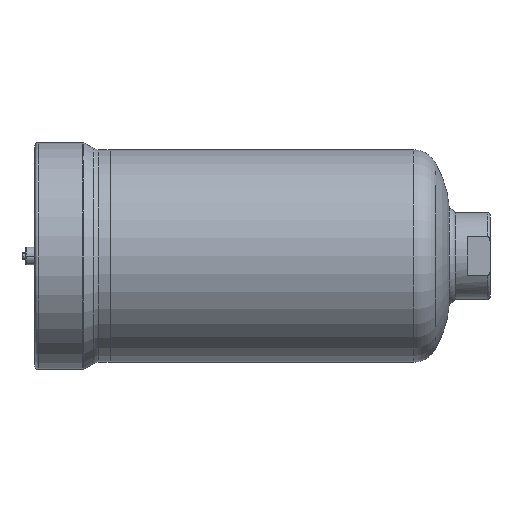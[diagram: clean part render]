
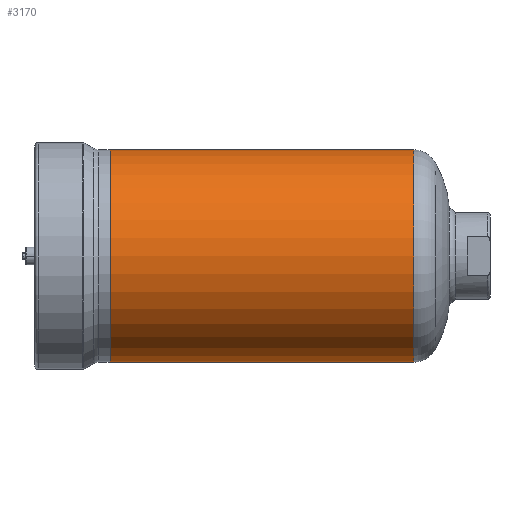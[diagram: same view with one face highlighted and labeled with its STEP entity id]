
A CAD part, left-side view. The second image highlights one B-rep face of the part: STEP entity #3170.
In plain terms, the highlighted cylindrical face has radius 103 mm (diameter 206 mm), a partial arc.
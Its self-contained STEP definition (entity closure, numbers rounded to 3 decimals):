
#5 = AXIS2_PLACEMENT_3D ( 'NONE', #5556, #1066, #7597 ) ;
#541 = CARTESIAN_POINT ( 'NONE',  ( 0., 288., 0. ) ) ;
#589 = AXIS2_PLACEMENT_3D ( 'NONE', #541, #7165, #3188 ) ;
#610 = VERTEX_POINT ( 'NONE', #2513 ) ;
#681 = CARTESIAN_POINT ( 'NONE',  ( 0., 288., -103. ) ) ;
#795 = CYLINDRICAL_SURFACE ( 'NONE', #3959, 103. ) ;
#879 = EDGE_LOOP ( 'NONE', ( #6553, #3114, #6046, #1745 ) ) ;
#956 = EDGE_CURVE ( 'NONE', #1720, #4990, #2360, .T. ) ;
#1003 = CARTESIAN_POINT ( 'NONE',  ( 0., 0., 103. ) ) ;
#1066 = DIRECTION ( 'NONE',  ( 0., -1., 0. ) ) ;
#1472 = DIRECTION ( 'NONE',  ( 0., -1., 0. ) ) ;
#1487 = EDGE_CURVE ( 'NONE', #5142, #610, #5406, .T. ) ;
#1720 = VERTEX_POINT ( 'NONE', #4193 ) ;
#1745 = ORIENTED_EDGE ( 'NONE', *, *, #956, .F. ) ;
#1930 = VECTOR ( 'NONE', #4116, 1000. ) ;
#2093 = DIRECTION ( 'NONE',  ( 0., 0., -1. ) ) ;
#2360 = CIRCLE ( 'NONE', #5, 103. ) ;
#2513 = CARTESIAN_POINT ( 'NONE',  ( 0., 288., 103. ) ) ;
#3114 = ORIENTED_EDGE ( 'NONE', *, *, #1487, .F. ) ;
#3170 = ADVANCED_FACE ( 'NONE', ( #6095 ), #795, .T. ) ;
#3188 = DIRECTION ( 'NONE',  ( 0., 0., 1. ) ) ;
#3392 = CARTESIAN_POINT ( 'NONE',  ( 0., 0., -103. ) ) ;
#3425 = CARTESIAN_POINT ( 'NONE',  ( 0., 0., 0. ) ) ;
#3441 = LINE ( 'NONE', #1003, #5006 ) ;
#3959 = AXIS2_PLACEMENT_3D ( 'NONE', #3425, #1472, #2093 ) ;
#4116 = DIRECTION ( 'NONE',  ( 0., -1., 0. ) ) ;
#4193 = CARTESIAN_POINT ( 'NONE',  ( 0., -6.54, 103. ) ) ;
#4990 = VERTEX_POINT ( 'NONE', #8372 ) ;
#5006 = VECTOR ( 'NONE', #5630, 1000. ) ;
#5142 = VERTEX_POINT ( 'NONE', #681 ) ;
#5406 = CIRCLE ( 'NONE', #589, 103. ) ;
#5556 = CARTESIAN_POINT ( 'NONE',  ( 0., -6.54, 0. ) ) ;
#5630 = DIRECTION ( 'NONE',  ( 0., -1., 0. ) ) ;
#5974 = LINE ( 'NONE', #3392, #1930 ) ;
#6046 = ORIENTED_EDGE ( 'NONE', *, *, #7888, .T. ) ;
#6095 = FACE_OUTER_BOUND ( 'NONE', #879, .T. ) ;
#6553 = ORIENTED_EDGE ( 'NONE', *, *, #7554, .F. ) ;
#7165 = DIRECTION ( 'NONE',  ( 0., 1., 0. ) ) ;
#7554 = EDGE_CURVE ( 'NONE', #610, #1720, #3441, .T. ) ;
#7597 = DIRECTION ( 'NONE',  ( 0., 0., -1. ) ) ;
#7888 = EDGE_CURVE ( 'NONE', #5142, #4990, #5974, .T. ) ;
#8372 = CARTESIAN_POINT ( 'NONE',  ( 0., -6.54, -103. ) ) ;
